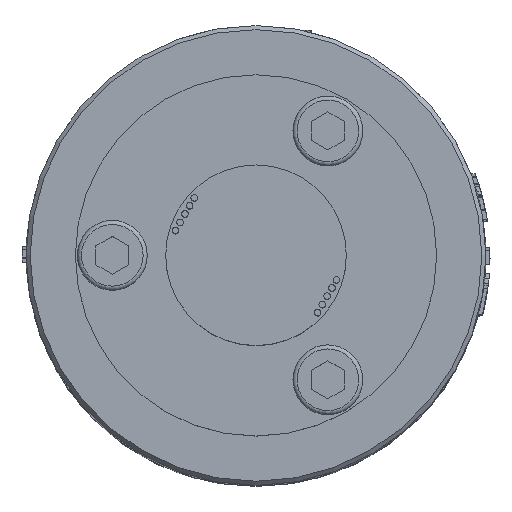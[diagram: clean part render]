
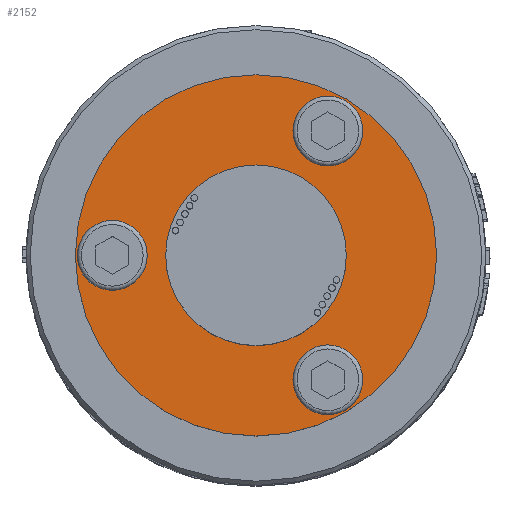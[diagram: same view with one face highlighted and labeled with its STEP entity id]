
A CAD part, top view. The second image highlights one B-rep face of the part: STEP entity #2152.
In plain terms, the highlighted planar face has unit normal (0, 0, 1).
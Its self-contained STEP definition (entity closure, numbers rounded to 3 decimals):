
#459=FACE_BOUND('',#4663,.T.);
#460=FACE_BOUND('',#4664,.T.);
#461=FACE_BOUND('',#4665,.T.);
#462=FACE_BOUND('',#4666,.T.);
#463=FACE_BOUND('',#4667,.T.);
#1138=CIRCLE('',#18219,4.25);
#1140=CIRCLE('',#18223,4.25);
#1143=CIRCLE('',#18236,4.25);
#1167=CIRCLE('',#18293,11.);
#1168=CIRCLE('',#18295,22.);
#2152=ADVANCED_FACE('',(#459,#460,#461,#462,#463),#2634,.T.);
#2634=PLANE('',#18296);
#4663=EDGE_LOOP('',(#11284));
#4664=EDGE_LOOP('',(#11285));
#4665=EDGE_LOOP('',(#11286));
#4666=EDGE_LOOP('',(#11287));
#4667=EDGE_LOOP('',(#11288));
#11284=ORIENTED_EDGE('',*,*,#15432,.F.);
#11285=ORIENTED_EDGE('',*,*,#15434,.F.);
#11286=ORIENTED_EDGE('',*,*,#15455,.F.);
#11287=ORIENTED_EDGE('',*,*,#15498,.T.);
#11288=ORIENTED_EDGE('',*,*,#15497,.F.);
#12958=VERTEX_POINT('',#36056);
#12960=VERTEX_POINT('',#36062);
#12975=VERTEX_POINT('',#36108);
#13011=VERTEX_POINT('',#36219);
#13012=VERTEX_POINT('',#36222);
#15432=EDGE_CURVE('',#12958,#12958,#1138,.T.);
#15434=EDGE_CURVE('',#12960,#12960,#1140,.T.);
#15455=EDGE_CURVE('',#12975,#12975,#1143,.T.);
#15497=EDGE_CURVE('',#13011,#13011,#1167,.T.);
#15498=EDGE_CURVE('',#13012,#13012,#1168,.T.);
#18219=AXIS2_PLACEMENT_3D('',#36055,#20833,#20834);
#18223=AXIS2_PLACEMENT_3D('',#36061,#20841,#20842);
#18236=AXIS2_PLACEMENT_3D('',#36107,#20885,#20886);
#18293=AXIS2_PLACEMENT_3D('',#36218,#21017,#21018);
#18295=AXIS2_PLACEMENT_3D('',#36221,#21021,#21022);
#18296=AXIS2_PLACEMENT_3D('',#36223,#21023,#21024);
#20833=DIRECTION('',(0.,0.,1.));
#20834=DIRECTION('',(-0.866,0.5,0.));
#20841=DIRECTION('',(0.,0.,1.));
#20842=DIRECTION('',(-0.866,0.5,0.));
#20885=DIRECTION('',(0.,0.,1.));
#20886=DIRECTION('',(-0.866,0.5,0.));
#21017=DIRECTION('',(0.,0.,1.));
#21018=DIRECTION('',(0.866,-0.5,0.));
#21021=DIRECTION('',(0.,0.,1.));
#21022=DIRECTION('',(0.866,-0.5,0.));
#21023=DIRECTION('',(0.,0.,1.));
#21024=DIRECTION('',(-0.866,0.5,0.));
#36055=CARTESIAN_POINT('',(8.75,-15.155,100.5));
#36056=CARTESIAN_POINT('',(5.069,-13.03,100.5));
#36061=CARTESIAN_POINT('',(8.75,15.155,100.5));
#36062=CARTESIAN_POINT('',(5.069,17.28,100.5));
#36107=CARTESIAN_POINT('',(-17.5,0.,100.5));
#36108=CARTESIAN_POINT('',(-21.181,2.125,100.5));
#36218=CARTESIAN_POINT('',(0.,0.,100.5));
#36219=CARTESIAN_POINT('',(9.526,-5.5,100.5));
#36221=CARTESIAN_POINT('',(0.,0.,100.5));
#36222=CARTESIAN_POINT('',(19.053,-11.,100.5));
#36223=CARTESIAN_POINT('',(0.,0.,100.5));
